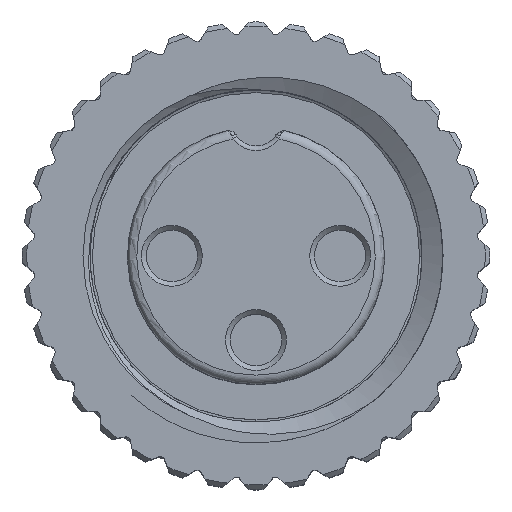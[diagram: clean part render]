
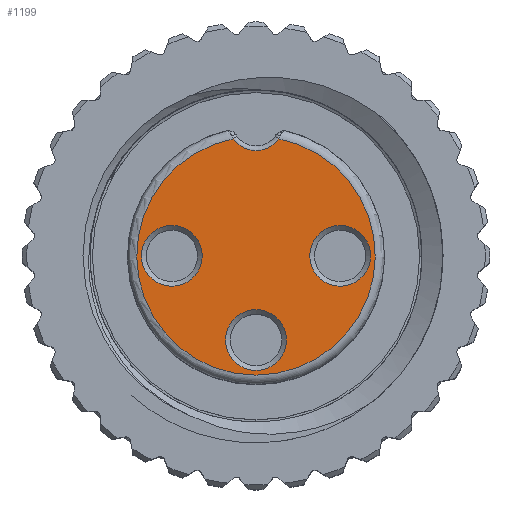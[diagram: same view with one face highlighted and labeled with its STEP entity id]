
A CAD part, top view. The second image highlights one B-rep face of the part: STEP entity #1199.
In plain terms, the highlighted planar face has unit normal (0, 0, 1).
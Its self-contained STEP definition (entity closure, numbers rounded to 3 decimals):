
#575=FACE_BOUND('',#2408,.T.);
#576=FACE_BOUND('',#2409,.T.);
#577=FACE_BOUND('',#2410,.T.);
#578=FACE_BOUND('',#2411,.T.);
#1199=ADVANCED_FACE('',(#575,#576,#577,#578),#1438,.F.);
#1438=PLANE('',#10052);
#2408=EDGE_LOOP('',(#5459));
#2409=EDGE_LOOP('',(#5460));
#2410=EDGE_LOOP('',(#5461));
#2411=EDGE_LOOP('',(#5462,#5463));
#2858=CIRCLE('',#10045,0.6);
#2860=CIRCLE('',#10048,0.65);
#2861=CIRCLE('',#10049,0.65);
#2862=CIRCLE('',#10050,0.65);
#2863=CIRCLE('',#10051,2.55);
#5459=ORIENTED_EDGE('',*,*,#7859,.T.);
#5460=ORIENTED_EDGE('',*,*,#7860,.T.);
#5461=ORIENTED_EDGE('',*,*,#7861,.T.);
#5462=ORIENTED_EDGE('',*,*,#7857,.T.);
#5463=ORIENTED_EDGE('',*,*,#7862,.T.);
#6511=VERTEX_POINT('',#19525);
#6512=VERTEX_POINT('',#19527);
#6513=VERTEX_POINT('',#19531);
#6514=VERTEX_POINT('',#19533);
#6515=VERTEX_POINT('',#19535);
#7857=EDGE_CURVE('',#6512,#6511,#2858,.T.);
#7859=EDGE_CURVE('',#6513,#6513,#2860,.T.);
#7860=EDGE_CURVE('',#6514,#6514,#2861,.T.);
#7861=EDGE_CURVE('',#6515,#6515,#2862,.T.);
#7862=EDGE_CURVE('',#6511,#6512,#2863,.T.);
#10045=AXIS2_PLACEMENT_3D('',#19526,#12389,#12390);
#10048=AXIS2_PLACEMENT_3D('',#19530,#12395,#12396);
#10049=AXIS2_PLACEMENT_3D('',#19532,#12397,#12398);
#10050=AXIS2_PLACEMENT_3D('',#19534,#12399,#12400);
#10051=AXIS2_PLACEMENT_3D('',#19536,#12401,#12402);
#10052=AXIS2_PLACEMENT_3D('',#19537,#12403,#12404);
#12389=DIRECTION('',(0.,0.,-1.));
#12390=DIRECTION('',(0.,-1.,0.));
#12395=DIRECTION('',(0.,0.,-1.));
#12396=DIRECTION('',(0.,-1.,0.));
#12397=DIRECTION('',(0.,0.,-1.));
#12398=DIRECTION('',(0.,-1.,0.));
#12399=DIRECTION('',(0.,0.,-1.));
#12400=DIRECTION('',(0.,-1.,0.));
#12401=DIRECTION('',(0.,0.,1.));
#12402=DIRECTION('',(0.,-1.,0.));
#12403=DIRECTION('',(0.,0.,-1.));
#12404=DIRECTION('',(0.,1.,0.));
#19525=CARTESIAN_POINT('',(-0.489,2.503,11.3));
#19526=CARTESIAN_POINT('',(0.,2.85,11.3));
#19527=CARTESIAN_POINT('',(0.489,2.503,11.3));
#19530=CARTESIAN_POINT('',(-1.8,0.,11.3));
#19531=CARTESIAN_POINT('',(-1.8,-0.65,11.3));
#19532=CARTESIAN_POINT('',(1.8,0.,11.3));
#19533=CARTESIAN_POINT('',(1.8,-0.65,11.3));
#19534=CARTESIAN_POINT('',(0.,-1.8,11.3));
#19535=CARTESIAN_POINT('',(0.,-2.45,11.3));
#19536=CARTESIAN_POINT('',(0.,0.,11.3));
#19537=CARTESIAN_POINT('',(0.,0.,11.3));
